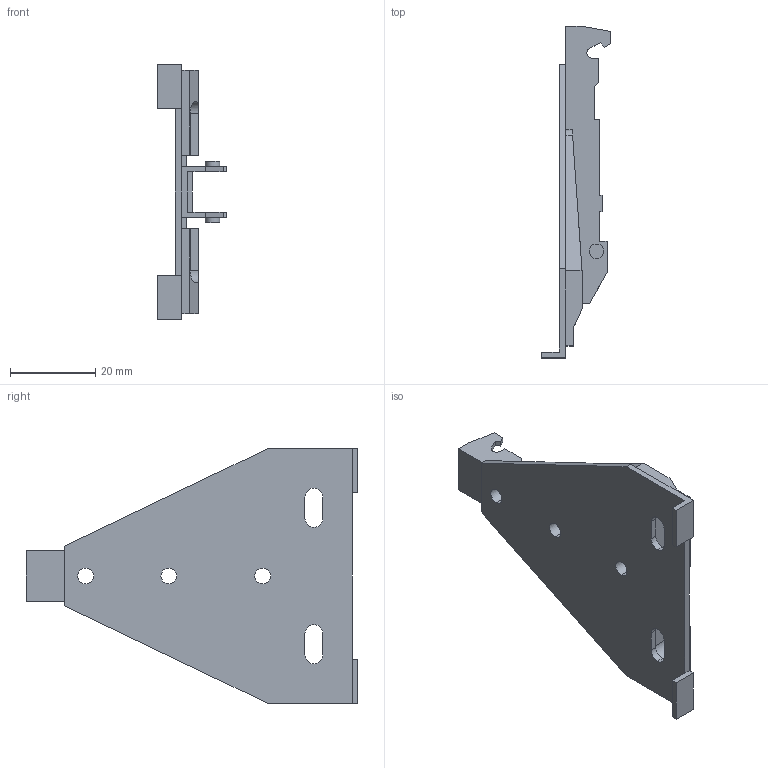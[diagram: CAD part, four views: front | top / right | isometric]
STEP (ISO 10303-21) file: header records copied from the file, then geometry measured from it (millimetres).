
FILE_DESCRIPTION (( 'STEP AP214' ), '1' );
FILE_NAME ('Eco Delta Spax_H 1,5.step', '2010-11-18T10:12:02', ( 'grass' ), ( '' ), 'SwSTEP 2.0', 'SolidWorks 2010', '' );
FILE_SCHEMA (( 'AUTOMOTIVE_DESIGN' ));
Length unit declared in the file: millimetre
Products named in the file (1): Eco Delta Spax_H 1,5
Bounding box: 16.2 x 77.75 x 60 mm (x, y, z)
Volume: 11029.9 mm3; surface area: 9319.9 mm2
Topology: 1 solids, 1 shells, 123 faces, 353 edges, 234 vertices
Faces by surface type: plane 98, cylinder 25
Entity records: 4036 total; most frequent: CARTESIAN_POINT 726, ORIENTED_EDGE 706, DIRECTION 643, EDGE_CURVE 353, LINE 301, VECTOR 301, VERTEX_POINT 234, AXIS2_PLACEMENT_3D 171
